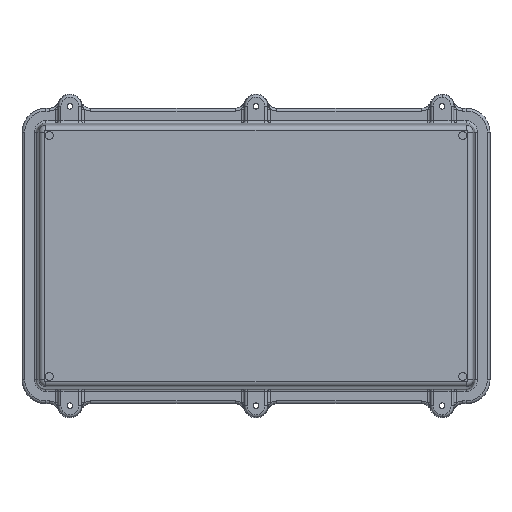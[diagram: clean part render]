
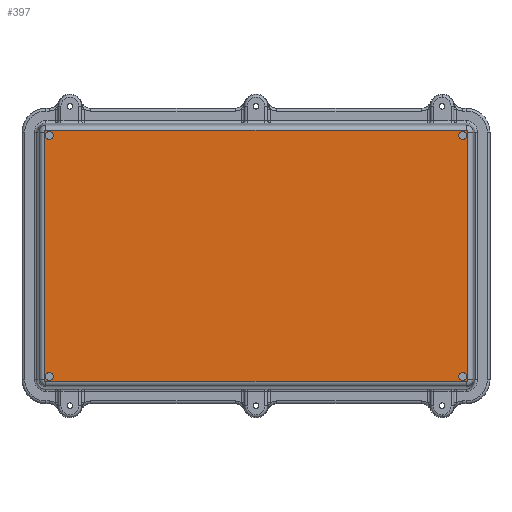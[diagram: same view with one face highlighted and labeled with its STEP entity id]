
A CAD part, front view. The second image highlights one B-rep face of the part: STEP entity #397.
In plain terms, the highlighted planar face has unit normal (0, -1, 0).
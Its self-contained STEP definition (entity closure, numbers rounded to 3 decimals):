
#226 = AXIS2_PLACEMENT_3D ( 'NONE', #17847, #3750, #18076 ) ;
#397 = ADVANCED_FACE ( 'NONE', ( #853, #2179, #30864, #5699, #17625 ), #22261, .T. ) ;
#583 = ORIENTED_EDGE ( 'NONE', *, *, #25309, .T. ) ;
#670 = AXIS2_PLACEMENT_3D ( 'NONE', #30159, #5368, #25069 ) ;
#765 = CARTESIAN_POINT ( 'NONE',  ( 123., -80., -72.5 ) ) ;
#853 = FACE_BOUND ( 'NONE', #7137, .T. ) ;
#931 = AXIS2_PLACEMENT_3D ( 'NONE', #8719, #28442, #11575 ) ;
#1166 = CARTESIAN_POINT ( 'NONE',  ( -121.05, -80., 68.2 ) ) ;
#1722 = EDGE_CURVE ( 'NONE', #12374, #18200, #18860, .T. ) ;
#2179 = FACE_BOUND ( 'NONE', #30963, .T. ) ;
#2501 = EDGE_CURVE ( 'NONE', #12785, #25622, #9535, .T. ) ;
#2529 = EDGE_CURVE ( 'NONE', #35391, #15420, #7360, .T. ) ;
#2706 = LINE ( 'NONE', #12112, #26454 ) ;
#3023 = DIRECTION ( 'NONE',  ( 0., -1., 0. ) ) ;
#3182 = DIRECTION ( 'NONE',  ( 0., -1., 0. ) ) ;
#3750 = DIRECTION ( 'NONE',  ( 0., -1., 0. ) ) ;
#4137 = EDGE_CURVE ( 'NONE', #6865, #6994, #22638, .T. ) ;
#4204 = EDGE_CURVE ( 'NONE', #25622, #12785, #32357, .T. ) ;
#4449 = DIRECTION ( 'NONE',  ( 0., 0., -1. ) ) ;
#4644 = DIRECTION ( 'NONE',  ( 0., -1., 0. ) ) ;
#4975 = VECTOR ( 'NONE', #17342, 1000. ) ;
#5209 = DIRECTION ( 'NONE',  ( 0., 0., 1. ) ) ;
#5351 = EDGE_LOOP ( 'NONE', ( #21651, #19438 ) ) ;
#5368 = DIRECTION ( 'NONE',  ( 0., -1., 0. ) ) ;
#5699 = FACE_BOUND ( 'NONE', #5351, .T. ) ;
#6121 = DIRECTION ( 'NONE',  ( 0., 0., -1. ) ) ;
#6267 = DIRECTION ( 'NONE',  ( 0., 0., 1. ) ) ;
#6677 = EDGE_CURVE ( 'NONE', #29031, #28353, #21603, .T. ) ;
#6865 = VERTEX_POINT ( 'NONE', #19772 ) ;
#6994 = VERTEX_POINT ( 'NONE', #17901 ) ;
#7016 = CIRCLE ( 'NONE', #17557, 1.018 ) ;
#7137 = EDGE_LOOP ( 'NONE', ( #14731, #17451 ) ) ;
#7360 = LINE ( 'NONE', #30735, #11778 ) ;
#7748 = CARTESIAN_POINT ( 'NONE',  ( 121.05, -80., -72.9 ) ) ;
#8324 = CARTESIAN_POINT ( 'NONE',  ( -123., -80., -72.5 ) ) ;
#8449 = VERTEX_POINT ( 'NONE', #34143 ) ;
#8560 = VERTEX_POINT ( 'NONE', #23024 ) ;
#8588 = AXIS2_PLACEMENT_3D ( 'NONE', #28673, #34261, #6267 ) ;
#8719 = CARTESIAN_POINT ( 'NONE',  ( 121.05, -80., -70.55 ) ) ;
#9443 = LINE ( 'NONE', #28463, #13010 ) ;
#9535 = CIRCLE ( 'NONE', #27871, 2.35 ) ;
#9723 = CIRCLE ( 'NONE', #226, 2.35 ) ;
#9735 = DIRECTION ( 'NONE',  ( 0., 0., -1. ) ) ;
#9917 = CARTESIAN_POINT ( 'NONE',  ( 121.05, -80., -70.55 ) ) ;
#9929 = EDGE_CURVE ( 'NONE', #8560, #18321, #9443, .T. ) ;
#10384 = CIRCLE ( 'NONE', #26444, 2.35 ) ;
#10793 = CARTESIAN_POINT ( 'NONE',  ( -121.05, -80., -70.55 ) ) ;
#11035 = CARTESIAN_POINT ( 'NONE',  ( 121.05, -80., 70.55 ) ) ;
#11575 = DIRECTION ( 'NONE',  ( 0., 0., -1. ) ) ;
#11778 = VECTOR ( 'NONE', #33231, 1000. ) ;
#12001 = EDGE_LOOP ( 'NONE', ( #36259, #26245, #28070, #13042, #35431, #18298, #18636, #583 ) ) ;
#12108 = CIRCLE ( 'NONE', #33592, 2.35 ) ;
#12112 = CARTESIAN_POINT ( 'NONE',  ( -124.018, -80., -72.5 ) ) ;
#12167 = CIRCLE ( 'NONE', #8588, 2.35 ) ;
#12292 = DIRECTION ( 'NONE',  ( 0., -1., 0. ) ) ;
#12374 = VERTEX_POINT ( 'NONE', #7748 ) ;
#12579 = EDGE_CURVE ( 'NONE', #24565, #33481, #12108, .T. ) ;
#12739 = EDGE_CURVE ( 'NONE', #18200, #12374, #10384, .T. ) ;
#12785 = VERTEX_POINT ( 'NONE', #1166 ) ;
#12821 = CARTESIAN_POINT ( 'NONE',  ( 121.05, -80., -68.2 ) ) ;
#13010 = VECTOR ( 'NONE', #17272, 1000. ) ;
#13042 = ORIENTED_EDGE ( 'NONE', *, *, #36333, .T. ) ;
#13823 = CARTESIAN_POINT ( 'NONE',  ( -123., -80., 73.518 ) ) ;
#14726 = DIRECTION ( 'NONE',  ( 0., 0., -1. ) ) ;
#14731 = ORIENTED_EDGE ( 'NONE', *, *, #6677, .F. ) ;
#15369 = CARTESIAN_POINT ( 'NONE',  ( -123., -80., -73.518 ) ) ;
#15420 = VERTEX_POINT ( 'NONE', #19500 ) ;
#15697 = CARTESIAN_POINT ( 'NONE',  ( 121.05, -80., 72.9 ) ) ;
#17272 = DIRECTION ( 'NONE',  ( -1., 0., 0. ) ) ;
#17342 = DIRECTION ( 'NONE',  ( 0., 0., 1. ) ) ;
#17344 = EDGE_CURVE ( 'NONE', #8449, #35391, #7016, .T. ) ;
#17451 = ORIENTED_EDGE ( 'NONE', *, *, #30796, .F. ) ;
#17557 = AXIS2_PLACEMENT_3D ( 'NONE', #8324, #3023, #36475 ) ;
#17625 = FACE_OUTER_BOUND ( 'NONE', #12001, .T. ) ;
#17847 = CARTESIAN_POINT ( 'NONE',  ( -121.05, -80., -70.55 ) ) ;
#17901 = CARTESIAN_POINT ( 'NONE',  ( 124.018, -80., 72.5 ) ) ;
#18042 = DIRECTION ( 'NONE',  ( 0., 0., -1. ) ) ;
#18076 = DIRECTION ( 'NONE',  ( 0., 0., 1. ) ) ;
#18200 = VERTEX_POINT ( 'NONE', #12821 ) ;
#18298 = ORIENTED_EDGE ( 'NONE', *, *, #17344, .T. ) ;
#18321 = VERTEX_POINT ( 'NONE', #13823 ) ;
#18636 = ORIENTED_EDGE ( 'NONE', *, *, #2529, .T. ) ;
#18860 = CIRCLE ( 'NONE', #931, 2.35 ) ;
#19186 = DIRECTION ( 'NONE',  ( 0., -1., 0. ) ) ;
#19438 = ORIENTED_EDGE ( 'NONE', *, *, #4204, .F. ) ;
#19500 = CARTESIAN_POINT ( 'NONE',  ( 123., -80., -73.518 ) ) ;
#19772 = CARTESIAN_POINT ( 'NONE',  ( 124.018, -80., -72.5 ) ) ;
#20495 = DIRECTION ( 'NONE',  ( 0., -1., 0. ) ) ;
#20643 = CIRCLE ( 'NONE', #33418, 1.018 ) ;
#21487 = EDGE_CURVE ( 'NONE', #30014, #8449, #2706, .T. ) ;
#21560 = CARTESIAN_POINT ( 'NONE',  ( -123., -80., 72.5 ) ) ;
#21603 = CIRCLE ( 'NONE', #35005, 2.35 ) ;
#21619 = DIRECTION ( 'NONE',  ( 0., -1., 0. ) ) ;
#21651 = ORIENTED_EDGE ( 'NONE', *, *, #2501, .F. ) ;
#21884 = DIRECTION ( 'NONE',  ( 0., -1., 0. ) ) ;
#22261 = PLANE ( 'NONE',  #670 ) ;
#22316 = AXIS2_PLACEMENT_3D ( 'NONE', #765, #12292, #9735 ) ;
#22638 = LINE ( 'NONE', #36472, #4975 ) ;
#23019 = CARTESIAN_POINT ( 'NONE',  ( -121.05, -80., 70.55 ) ) ;
#23024 = CARTESIAN_POINT ( 'NONE',  ( 123., -80., 73.518 ) ) ;
#23030 = CARTESIAN_POINT ( 'NONE',  ( -121.05, -80., 72.9 ) ) ;
#23270 = ORIENTED_EDGE ( 'NONE', *, *, #12739, .F. ) ;
#23296 = DIRECTION ( 'NONE',  ( 0., 0., -1. ) ) ;
#24377 = EDGE_CURVE ( 'NONE', #6994, #8560, #20643, .T. ) ;
#24487 = CARTESIAN_POINT ( 'NONE',  ( -124.018, -80., 72.5 ) ) ;
#24565 = VERTEX_POINT ( 'NONE', #26741 ) ;
#24723 = ORIENTED_EDGE ( 'NONE', *, *, #24901, .F. ) ;
#24773 = ORIENTED_EDGE ( 'NONE', *, *, #1722, .F. ) ;
#24901 = EDGE_CURVE ( 'NONE', #33481, #24565, #12167, .T. ) ;
#25069 = DIRECTION ( 'NONE',  ( 0., 0., -1. ) ) ;
#25309 = EDGE_CURVE ( 'NONE', #15420, #6865, #31616, .T. ) ;
#25622 = VERTEX_POINT ( 'NONE', #23030 ) ;
#26245 = ORIENTED_EDGE ( 'NONE', *, *, #24377, .T. ) ;
#26444 = AXIS2_PLACEMENT_3D ( 'NONE', #9917, #29605, #18042 ) ;
#26454 = VECTOR ( 'NONE', #14726, 1000. ) ;
#26741 = CARTESIAN_POINT ( 'NONE',  ( 121.05, -80., 68.2 ) ) ;
#26758 = CARTESIAN_POINT ( 'NONE',  ( -121.05, -80., -68.2 ) ) ;
#27029 = CARTESIAN_POINT ( 'NONE',  ( -121.05, -80., 70.55 ) ) ;
#27217 = DIRECTION ( 'NONE',  ( 0., 0., -1. ) ) ;
#27595 = CARTESIAN_POINT ( 'NONE',  ( -121.05, -80., -72.9 ) ) ;
#27871 = AXIS2_PLACEMENT_3D ( 'NONE', #27029, #21619, #4449 ) ;
#28070 = ORIENTED_EDGE ( 'NONE', *, *, #9929, .T. ) ;
#28353 = VERTEX_POINT ( 'NONE', #26758 ) ;
#28442 = DIRECTION ( 'NONE',  ( 0., -1., 0. ) ) ;
#28463 = CARTESIAN_POINT ( 'NONE',  ( -123., -80., 73.518 ) ) ;
#28673 = CARTESIAN_POINT ( 'NONE',  ( 121.05, -80., 70.55 ) ) ;
#28721 = CARTESIAN_POINT ( 'NONE',  ( 123., -80., 72.5 ) ) ;
#29031 = VERTEX_POINT ( 'NONE', #27595 ) ;
#29605 = DIRECTION ( 'NONE',  ( 0., -1., 0. ) ) ;
#30014 = VERTEX_POINT ( 'NONE', #24487 ) ;
#30159 = CARTESIAN_POINT ( 'NONE',  ( -123., -80., 72.5 ) ) ;
#30735 = CARTESIAN_POINT ( 'NONE',  ( 123., -80., -73.518 ) ) ;
#30764 = DIRECTION ( 'NONE',  ( 0., 0., 1. ) ) ;
#30796 = EDGE_CURVE ( 'NONE', #28353, #29031, #9723, .T. ) ;
#30864 = FACE_BOUND ( 'NONE', #35807, .T. ) ;
#30963 = EDGE_LOOP ( 'NONE', ( #24773, #23270 ) ) ;
#31616 = CIRCLE ( 'NONE', #22316, 1.018 ) ;
#32318 = AXIS2_PLACEMENT_3D ( 'NONE', #21560, #4644, #27217 ) ;
#32357 = CIRCLE ( 'NONE', #35916, 2.35 ) ;
#32689 = ORIENTED_EDGE ( 'NONE', *, *, #12579, .F. ) ;
#33231 = DIRECTION ( 'NONE',  ( 1., 0., 0. ) ) ;
#33418 = AXIS2_PLACEMENT_3D ( 'NONE', #28721, #20495, #23296 ) ;
#33481 = VERTEX_POINT ( 'NONE', #15697 ) ;
#33585 = CIRCLE ( 'NONE', #32318, 1.018 ) ;
#33592 = AXIS2_PLACEMENT_3D ( 'NONE', #11035, #19186, #30764 ) ;
#34143 = CARTESIAN_POINT ( 'NONE',  ( -124.018, -80., -72.5 ) ) ;
#34261 = DIRECTION ( 'NONE',  ( 0., -1., 0. ) ) ;
#35005 = AXIS2_PLACEMENT_3D ( 'NONE', #10793, #21884, #5209 ) ;
#35391 = VERTEX_POINT ( 'NONE', #15369 ) ;
#35431 = ORIENTED_EDGE ( 'NONE', *, *, #21487, .T. ) ;
#35807 = EDGE_LOOP ( 'NONE', ( #32689, #24723 ) ) ;
#35916 = AXIS2_PLACEMENT_3D ( 'NONE', #23019, #3182, #6121 ) ;
#36259 = ORIENTED_EDGE ( 'NONE', *, *, #4137, .T. ) ;
#36333 = EDGE_CURVE ( 'NONE', #18321, #30014, #33585, .T. ) ;
#36472 = CARTESIAN_POINT ( 'NONE',  ( 124.018, -80., 72.5 ) ) ;
#36475 = DIRECTION ( 'NONE',  ( 0., 0., -1. ) ) ;
